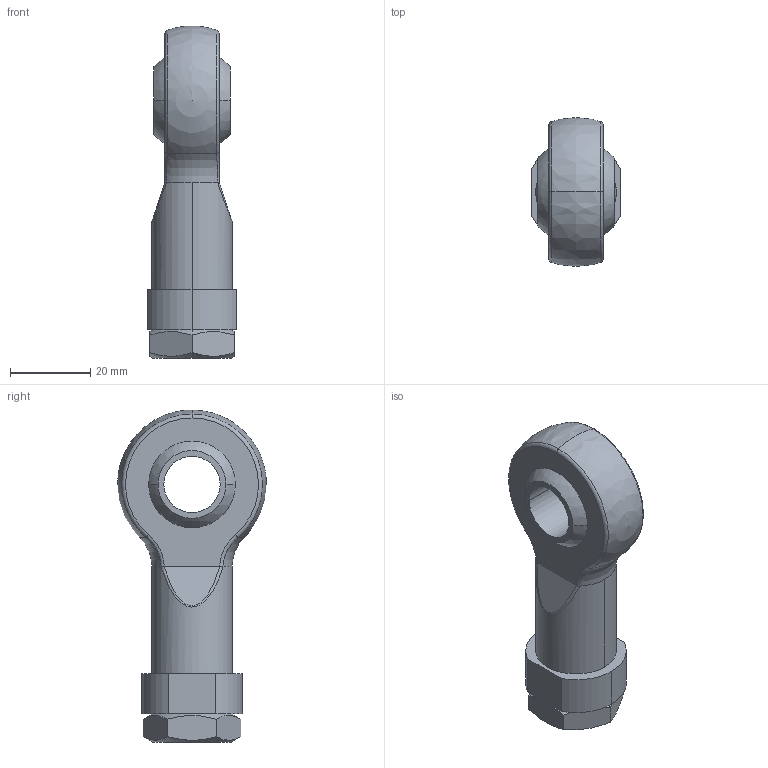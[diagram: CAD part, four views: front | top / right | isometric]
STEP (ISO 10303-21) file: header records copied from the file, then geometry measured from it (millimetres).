
FILE_DESCRIPTION (( 'STEP AP203' ), '1' );
FILE_NAME ('MJ2-KGK.STEP', '2024-01-15T15:10:49', ( '' ), ( '' ), 'SwSTEP 2.0', 'SolidWorks 2022', '' );
FILE_SCHEMA (( 'CONFIG_CONTROL_DESIGN' ));
Length unit declared in the file: millimetre
Products named in the file (1): MJ2-KGK
Bounding box: 22 x 37 x 82.5 mm (x, y, z)
Volume: 25107.7 mm3; surface area: 9276.7 mm2
Topology: 2 solids, 2 shells, 58 faces, 146 edges, 92 vertices
Faces by surface type: plane 18, cylinder 12, cone 10, torus 6, sphere 6, bspline 6
Entity records: 2065 total; most frequent: CARTESIAN_POINT 695, ORIENTED_EDGE 278, DIRECTION 260, EDGE_CURVE 139, AXIS2_PLACEMENT_3D 112, VERTEX_POINT 89, EDGE_LOOP 66, CIRCLE 59
